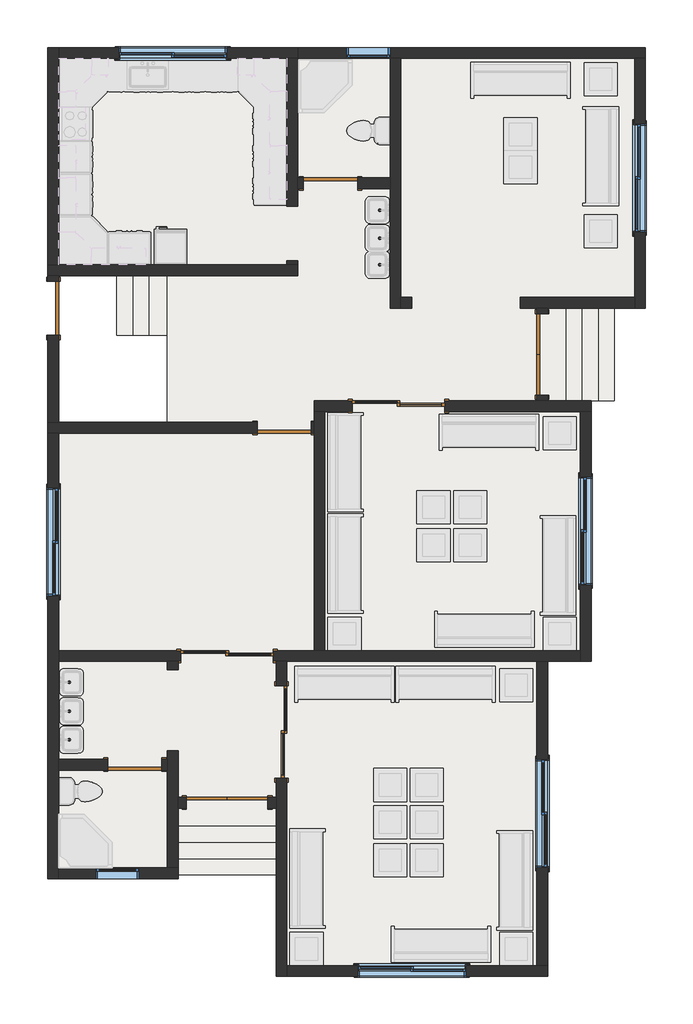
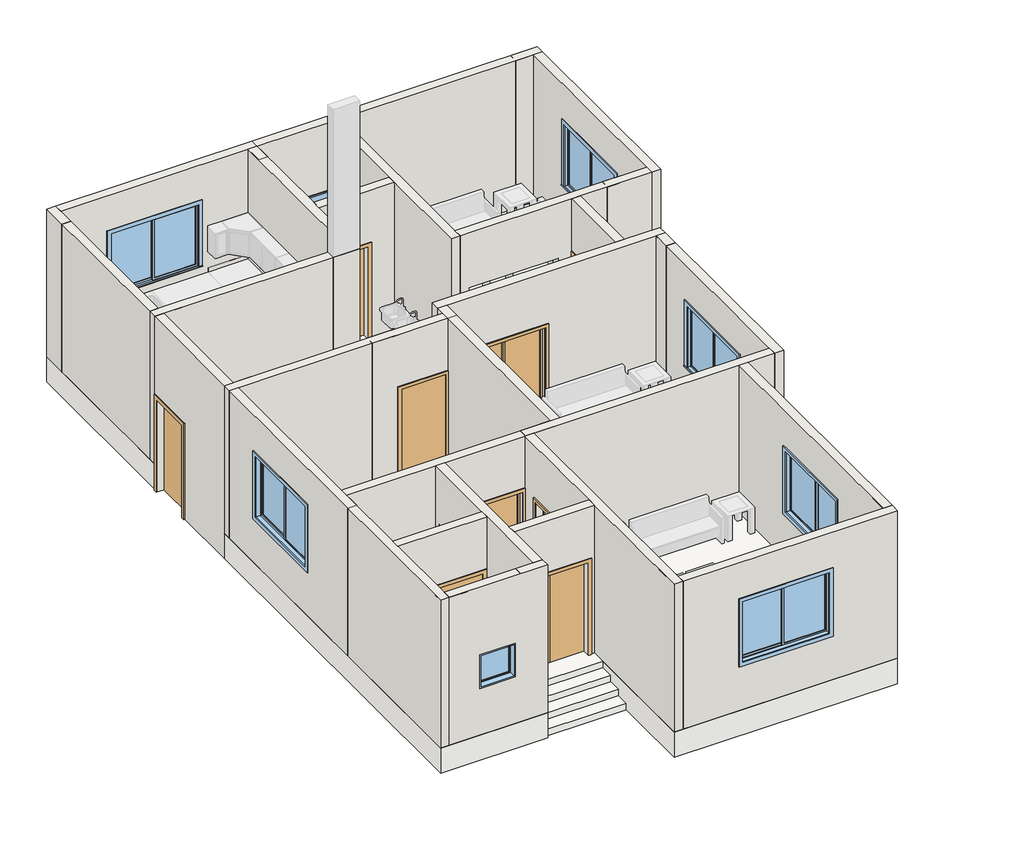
# One storey, part 1 of 2: 24 walls, 10 slabs, 9 doors, 8 windows.
"""IFC4 building model written with IfcOpenShell, lengths in millimetres."""

from ifc_helpers import new_model, si_unit, frame, origin, place, context, project, spatial, polyline, outline, extrude, faceted_brep, transform, mapped, element, save
from components import m_double_flush_4a17c8f0, m_single_flush_6cbb3975, m_sliding_2_panel_41676aa5, m_fixed_1d0fbe82, m_fixed_a47e0898, m_sliding_with_trim_450d2075, m_sliding_with_trim_8e0fa824

model = new_model("IFC4")

# Units and contexts
model_context = context("Model", 3, world=origin())
ifc_project = project(units=[si_unit("LENGTHUNIT", "METRE", prefix="MILLI")], contexts=[model_context])

# Site, building, storey
site = spatial("IfcSite", under=ifc_project)
building = spatial("IfcBuilding", under=site)
storey = spatial("IfcBuildingStorey", under=building, Name="الدور الأرضي", Elevation=0.0)

# Doors
placement = place(None, origin())
m_double_flush_shape = m_double_flush_4a17c8f0(model_context)
element("IfcDoor", 1, ObjectType="M_Double-Flush : ب 2", at=placement, inside=storey, context=model_context, shape_type="MappedRepresentation", body=[
    mapped(m_double_flush_shape, transform((-2518.9848222, -5670.2727444, 0.0), x_axis=(1.0, 0.0, 0.0), y_axis=(0.0, 1.0, 0.0), z_axis=(0.0, 0.0, 1.0))),
])
element("IfcDoor", 2, ObjectType="M_Double-Flush : ب 2", at=placement, inside=storey, context=model_context, shape_type="MappedRepresentation", body=[
    mapped(m_double_flush_shape, transform((3281.0151778, 2579.7272556, 0.0), x_axis=(0.0, 1.0, 0.0), y_axis=(-1.0, 0.0, 0.0), z_axis=(0.0, 0.0, 1.0))),
])
m_single_flush_shape = m_single_flush_6cbb3975(model_context)
element("IfcDoor", 3, ObjectType="M_Single-Flush : ب 1", at=placement, inside=storey, context=model_context, shape_type="MappedRepresentation", body=[
    mapped(m_single_flush_shape, transform((-4218.9848222, -4970.2727444, 0.0), x_axis=(1.0, 0.0, 0.0), y_axis=(0.0, 1.0, 0.0), z_axis=(0.0, 0.0, 1.0))),
])
element("IfcDoor", 4, ObjectType="M_Single-Flush : ب 1", at=placement, inside=storey, context=model_context, shape_type="MappedRepresentation", body=[
    mapped(m_single_flush_shape, transform((-1468.9848222, 1229.7272556, 0.0), x_axis=(1.0, 0.0, 0.0), y_axis=(0.0, 1.0, 0.0), z_axis=(0.0, 0.0, 1.0))),
])
element("IfcDoor", 5, ObjectType="M_Single-Flush : ب 1", at=placement, inside=storey, context=model_context, shape_type="MappedRepresentation", body=[
    mapped(m_single_flush_shape, transform((-618.9848222, 5729.7272556, 0.0), x_axis=(-1.0, 0.0, 0.0), y_axis=(0.0, -1.0, 0.0), z_axis=(0.0, 0.0, 1.0))),
])
element("IfcDoor", 6, ObjectType="M_Single-Flush : ب 1", at=placement, inside=storey, context=model_context, shape_type="MappedRepresentation", body=[
    mapped(m_single_flush_shape, transform((-5718.9848222, 3429.7272556, -600.0), x_axis=(0.0, 1.0, 0.0), y_axis=(-1.0, 0.0, 0.0), z_axis=(0.0, 0.0, 1.0))),
])
m_sliding_2_panel_shape = m_sliding_2_panel_41676aa5(model_context)
element("IfcDoor", 7, ObjectType="M_Sliding-2 Panel : ب 3", at=placement, inside=storey, context=model_context, shape_type="MappedRepresentation", body=[
    mapped(m_sliding_2_panel_shape, transform((636.0151778, 1502.7272556, 0.0), x_axis=(1.0, 0.0, 0.0), y_axis=(0.0, 1.0, 0.0), z_axis=(0.0, 0.0, 1.0))),
])
element("IfcDoor", 8, ObjectType="M_Sliding-2 Panel : ب 3", at=placement, inside=storey, context=model_context, shape_type="MappedRepresentation", body=[
    mapped(m_sliding_2_panel_shape, transform((-2518.9848222, -3097.2727444, 0.0), x_axis=(1.0, 0.0, 0.0), y_axis=(0.0, 1.0, 0.0), z_axis=(0.0, 0.0, 1.0))),
])
element("IfcDoor", 9, ObjectType="M_Sliding-2 Panel : ب 3", at=placement, inside=storey, context=model_context, shape_type="MappedRepresentation", body=[
    mapped(m_sliding_2_panel_shape, transform((-1645.9848222, -4370.2727444, 0.0), x_axis=(0.0, -1.0, 0.0), y_axis=(1.0, 0.0, 0.0), z_axis=(0.0, 0.0, 1.0))),
])

# Slabs
element("IfcSlab", 10, ObjectType="Generic Floor - 150 mm", at=placement, inside=storey, context=model_context, shape_type="SweptSolid", body=[
    extrude(outline(polyline([(4611.0151778, 1729.7272556), (4311.0151778, 1729.7272556), (4311.0151778, 3429.7272556), (4611.0151778, 3429.7272556), (4611.0151778, 1729.7272556)])), frame((0.0, 0.0, -600.0), z_axis=(0.0, 0.0, 1.0), x_axis=(1.0, 0.0, 0.0)), (0.0, 0.0, 1.0), 150.0),
])
element("IfcSlab", 11, ObjectType="Generic Floor - 150mm", at=placement, inside=storey, context=model_context, shape_type="SweptSolid", body=[
    extrude(outline(polyline([(-1618.9848222, -6700.2727444), (-1618.9848222, -7000.2727444), (-3418.9848222, -7000.2727444), (-3418.9848222, -6700.2727444), (-1618.9848222, -6700.2727444)])), frame((0.0, 0.0, -600.0), z_axis=(0.0, 0.0, 1.0), x_axis=(1.0, 0.0, 0.0)), (0.0, 0.0, 1.0), 150.0),
])
element("IfcSlab", 12, ObjectType="Generic Floor - 150mm", at=placement, inside=storey, context=model_context, shape_type="SweptSolid", body=[
    extrude(outline(polyline([(-4548.9848222, 2929.7272556), (-4548.9848222, 4029.7272556), (-4248.9848222, 4029.7272556), (-4248.9848222, 2929.7272556), (-4548.9848222, 2929.7272556)])), frame((0.0, 0.0, -600.0), z_axis=(0.0, 0.0, 1.0), x_axis=(1.0, 0.0, 0.0)), (0.0, 0.0, 1.0), 150.0),
])
element("IfcSlab", 13, ObjectType="Generic Floor - 300 mm", at=placement, inside=storey, context=model_context, shape_type="SweptSolid", body=[
    extrude(outline(polyline([(4311.0151778, 1726.4670822), (4011.0151778, 1726.4670822), (4011.0151778, 3426.4670822), (4311.0151778, 3426.4670822), (4311.0151778, 1726.4670822)])), frame((0.0, 0.0, -600.0), z_axis=(0.0, 0.0, 1.0), x_axis=(1.0, 0.0, 0.0)), (0.0, 0.0, 1.0), 300.0),
])
element("IfcSlab", 14, ObjectType="Generic Floor - 300 mm", at=placement, inside=storey, context=model_context, shape_type="SweptSolid", body=[
    extrude(outline(polyline([(-1618.9848222, -6400.2727444), (-1618.9848222, -6700.2727444), (-3418.9848222, -6700.2727444), (-3418.9848222, -6400.2727444), (-1618.9848222, -6400.2727444)])), frame((0.0, 0.0, -600.0), z_axis=(0.0, 0.0, 1.0), x_axis=(1.0, 0.0, 0.0)), (0.0, 0.0, 1.0), 300.0),
])
element("IfcSlab", 15, ObjectType="Generic Floor - 300 mm", at=placement, inside=storey, context=model_context, shape_type="SweptSolid", body=[
    extrude(outline(polyline([(-3948.9848222, 2929.7272556), (-4248.9848222, 2929.7272556), (-4248.9848222, 4029.7272556), (-3948.9848222, 4029.7272556), (-3948.9848222, 2929.7272556)])), frame((0.0, 0.0, -600.0), z_axis=(0.0, 0.0, 1.0), x_axis=(1.0, 0.0, 0.0)), (0.0, 0.0, 1.0), 300.0),
])
element("IfcSlab", 16, ObjectType="Generic Floor - 450 mm", at=placement, inside=storey, context=model_context, shape_type="SweptSolid", body=[
    extrude(outline(polyline([(4011.0151778, 1729.7272556), (3711.0151778, 1729.7272556), (3711.0151778, 3429.7272556), (4011.0151778, 3429.7272556), (4011.0151778, 1729.7272556)])), frame((0.0, 0.0, -600.0), z_axis=(0.0, 0.0, 1.0), x_axis=(1.0, 0.0, 0.0)), (0.0, 0.0, 1.0), 450.0),
])
element("IfcSlab", 17, ObjectType="Generic Floor - 450 mm", at=placement, inside=storey, context=model_context, shape_type="SweptSolid", body=[
    extrude(outline(polyline([(-1618.9848222, -6100.2727444), (-1618.9848222, -6400.2727444), (-3418.9848222, -6400.2727444), (-3418.9848222, -6100.2727444), (-1618.9848222, -6100.2727444)])), frame((0.0, 0.0, -600.0), z_axis=(0.0, 0.0, 1.0), x_axis=(1.0, 0.0, 0.0)), (0.0, 0.0, 1.0), 450.0),
])
element("IfcSlab", 18, ObjectType="Generic Floor - 450 mm", at=placement, inside=storey, context=model_context, shape_type="SweptSolid", body=[
    extrude(outline(polyline([(-3618.9848222, 2929.7272556), (-3948.9848222, 2929.7272556), (-3948.9848222, 4029.7272556), (-3618.9848222, 4029.7272556), (-3618.9848222, 2929.7272556)])), frame((0.0, 0.0, -600.0), z_axis=(0.0, 0.0, 1.0), x_axis=(1.0, 0.0, 0.0)), (0.0, 0.0, 1.0), 450.0),
])
element("IfcSlab", 19, ObjectType="Generic Floor - 600mm", at=placement, inside=storey, context=model_context, shape_type="SweptSolid", body=[
    extrude(outline(polyline([(5181.0151778, 8229.7272556), (5181.0151778, 3429.7272556), (3711.0151778, 3429.7272556), (3711.0151778, 1729.7272556), (4181.0151778, 1729.7272556), (4181.0151778, -3070.2727444), (3381.0151778, -3070.2727444), (3381.0151778, -8870.2727444), (-1618.9848222, -8870.2727444), (-1618.9848222, -6100.2727444), (-3418.9848222, -6100.2727444), (-3418.9848222, -7070.2727444), (-5818.9848222, -7070.2727444), (-5818.9848222, 1329.7272556), (-3618.9848222, 1329.7272556), (-3618.9848222, 4029.7272556), (-5818.9848222, 4029.7272556), (-5818.9848222, 8229.7272556), (5181.0151778, 8229.7272556)])), frame((0.0, 0.0, -600.0), z_axis=(0.0, 0.0, 1.0), x_axis=(1.0, 0.0, 0.0)), (0.0, 0.0, 1.0), 600.0),
])

# Walls
element("IfcWall", 20, ObjectType="GF- 200mm", at=placement, inside=storey, context=model_context, shape_type="Brep", body=[
    faceted_brep([(-5818.9848222, 8229.7272556, 0.0), (-5818.9848222, 4229.7272556, 0.0), (-5818.9848222, 4229.7272556, 3500.0), (-5818.9848222, 8229.7272556, 3500.0), (-5618.9848222, 8229.7272556, 0.0), (-5618.9848222, 8229.7272556, 3500.0), (-5618.9848222, 8029.7272556, 3500.0), (-5618.9848222, 4229.7272556, 3500.0), (-5618.9848222, 4229.7272556, 0.0), (-5618.9848222, 8029.7272556, 0.0)], [[[0, 1, 2, 3]], [[4, 5, 6, 7, 8, 9]], [[1, 0, 4, 9, 8]], [[3, 2, 7, 6, 5]], [[0, 3, 5, 4]], [[2, 1, 8, 7]]]),
])
element("IfcWall", 21, ObjectType="GF- 200mm", at=placement, inside=storey, context=model_context, shape_type="Brep", body=[
    faceted_brep([(-5818.9848222, 4029.7272556, 0.0), (-1218.9848222, 4029.7272556, 0.0), (-1218.9848222, 4029.7272556, 3500.0), (-5618.9848222, 4029.7272556, 3500.0), (-5818.9848222, 4029.7272556, 3500.0), (-5818.9848222, 4229.7272556, 0.0), (-5818.9848222, 4229.7272556, 3500.0), (-5618.9848222, 4229.7272556, 3500.0), (-1418.9848222, 4229.7272556, 3500.0), (-1218.9848222, 4229.7272556, 3500.0), (-1218.9848222, 4229.7272556, 0.0), (-1418.9848222, 4229.7272556, 0.0), (-5618.9848222, 4229.7272556, 0.0)], [[[0, 1, 2, 3, 4]], [[5, 6, 7, 8, 9, 10, 11, 12]], [[1, 0, 5, 12, 11, 10]], [[4, 3, 2, 9, 8, 7, 6]], [[2, 1, 10, 9]], [[0, 4, 6, 5]]]),
])
element("IfcWall", 22, ObjectType="GF- 200mm", at=placement, inside=storey, context=model_context, shape_type="Brep", body=[
    faceted_brep([(-5618.9848222, 8029.7272556, 0.0), (-1418.9848222, 8029.7272556, 0.0), (-1218.9848222, 8029.7272556, 0.0), (-1218.9848222, 8029.7272556, 3500.0), (-1418.9848222, 8029.7272556, 3500.0), (-5618.9848222, 8029.7272556, 3500.0), (-2518.9848222, 8029.7272556, 2600.0), (-2518.9848222, 8029.7272556, 1100.0), (-4518.9848222, 8029.7272556, 1100.0), (-4518.9848222, 8029.7272556, 2600.0), (-5618.9848222, 8229.7272556, 0.0), (-5618.9848222, 8229.7272556, 3500.0), (-1218.9848222, 8229.7272556, 3500.0), (-1218.9848222, 8229.7272556, 0.0), (-2518.9848222, 8229.7272556, 2600.0), (-4518.9848222, 8229.7272556, 2600.0), (-4518.9848222, 8229.7272556, 1100.0), (-2518.9848222, 8229.7272556, 1100.0)], [[[0, 1, 2, 3, 4, 5], [6, 7, 8, 9]], [[10, 11, 12, 13], [14, 15, 16, 17]], [[2, 1, 0, 10, 13]], [[5, 4, 3, 12, 11]], [[0, 5, 11, 10]], [[3, 2, 13, 12]], [[7, 6, 14, 17]], [[8, 7, 17, 16]], [[9, 8, 16, 15]], [[6, 9, 15, 14]]]),
])
element("IfcWall", 23, ObjectType="GF- 200mm", at=placement, inside=storey, context=model_context, shape_type="Brep", body=[
    faceted_brep([(-1218.9848222, 4229.7272556, 0.0), (-1218.9848222, 4309.7272556, 0.0), (-1218.9848222, 4309.7272556, 2134.0), (-1218.9848222, 5309.7272556, 2134.0), (-1218.9848222, 5309.7272556, 0.0), (-1218.9848222, 5629.7272556, 0.0), (-1218.9848222, 5829.7272556, 0.0), (-1218.9848222, 8029.7272556, 0.0), (-1218.9848222, 8029.7272556, 3500.0), (-1218.9848222, 5829.7272556, 3500.0), (-1218.9848222, 5629.7272556, 3500.0), (-1218.9848222, 4229.7272556, 3500.0), (-1418.9848222, 4309.7272556, 2134.0), (-1418.9848222, 4309.7272556, 0.0), (-1418.9848222, 4229.7272556, 0.0), (-1418.9848222, 4229.7272556, 3500.0), (-1418.9848222, 8029.7272556, 3500.0), (-1418.9848222, 8029.7272556, 0.0), (-1418.9848222, 5309.7272556, 0.0), (-1418.9848222, 5309.7272556, 2134.0)], [[[0, 1, 2, 3, 4, 5, 6, 7, 8, 9, 10, 11]], [[12, 13, 14, 15, 16, 17, 18, 19]], [[18, 17, 7, 6, 5, 4]], [[14, 13, 1, 0]], [[11, 10, 9, 8, 16, 15]], [[0, 11, 15, 14]], [[8, 7, 17, 16]], [[4, 3, 19, 18]], [[2, 1, 13, 12]], [[3, 2, 12, 19]]]),
])
element("IfcWall", 24, ObjectType="GF- 200mm", at=placement, inside=storey, context=model_context, shape_type="Brep", body=[
    faceted_brep([(-1218.9848222, 8029.7272556, 0.0), (481.0151778, 8029.7272556, 0.0), (681.0151778, 8029.7272556, 0.0), (4981.0151778, 8029.7272556, 0.0), (5181.0151778, 8029.7272556, 0.0), (5181.0151778, 8029.7272556, 3500.0), (4981.0151778, 8029.7272556, 3500.0), (681.0151778, 8029.7272556, 3500.0), (481.0151778, 8029.7272556, 3500.0), (-1218.9848222, 8029.7272556, 3500.0), (481.0151778, 8029.7272556, 1100.0), (-318.9848222, 8029.7272556, 1100.0), (-318.9848222, 8029.7272556, 1900.0), (481.0151778, 8029.7272556, 1900.0), (-1218.9848222, 8229.7272556, 0.0), (-1218.9848222, 8229.7272556, 3500.0), (5181.0151778, 8229.7272556, 3500.0), (5181.0151778, 8229.7272556, 0.0), (481.0151778, 8229.7272556, 1100.0), (481.0151778, 8229.7272556, 1900.0), (-318.9848222, 8229.7272556, 1900.0), (-318.9848222, 8229.7272556, 1100.0)], [[[0, 1, 2, 3, 4, 5, 6, 7, 8, 9], [10, 11, 12, 13]], [[14, 15, 16, 17], [18, 19, 20, 21]], [[4, 3, 2, 1, 0, 14, 17]], [[9, 8, 7, 6, 5, 16, 15]], [[5, 4, 17, 16]], [[0, 9, 15, 14]], [[19, 18, 10, 13]], [[20, 19, 13, 12]], [[21, 20, 12, 11]], [[18, 21, 11, 10]]]),
])
element("IfcWall", 25, ObjectType="GF- 200mm", at=placement, inside=storey, context=model_context, shape_type="Brep", body=[
    faceted_brep([(4981.0151778, 8029.7272556, 0.0), (4981.0151778, 3629.7272556, 0.0), (4981.0151778, 3429.7272556, 0.0), (4981.0151778, 3429.7272556, 3500.0), (4981.0151778, 3629.7272556, 3500.0), (4981.0151778, 8029.7272556, 3500.0), (4981.0151778, 4829.7272556, 2600.0), (4981.0151778, 4829.7272556, 1100.0), (4981.0151778, 6829.7272556, 1100.0), (4981.0151778, 6829.7272556, 2600.0), (5181.0151778, 8029.7272556, 0.0), (5181.0151778, 8029.7272556, 3500.0), (5181.0151778, 3429.7272556, 3500.0), (5181.0151778, 3429.7272556, 0.0), (5181.0151778, 4829.7272556, 2600.0), (5181.0151778, 6829.7272556, 2600.0), (5181.0151778, 6829.7272556, 1100.0), (5181.0151778, 4829.7272556, 1100.0)], [[[0, 1, 2, 3, 4, 5], [6, 7, 8, 9]], [[10, 11, 12, 13], [14, 15, 16, 17]], [[2, 1, 0, 10, 13]], [[5, 4, 3, 12, 11]], [[0, 5, 11, 10]], [[3, 2, 13, 12]], [[7, 6, 14, 17]], [[8, 7, 17, 16]], [[9, 8, 16, 15]], [[6, 9, 15, 14]]]),
])
element("IfcWall", 26, ObjectType="GF- 200mm", at=placement, inside=storey, context=model_context, shape_type="Brep", body=[
    faceted_brep([(481.0151778, 8029.7272556, 0.0), (481.0151778, 5829.7272556, 0.0), (481.0151778, 5629.7272556, 0.0), (481.0151778, 3429.7272556, 0.0), (481.0151778, 3429.7272556, 3500.0), (481.0151778, 5629.7272556, 3500.0), (481.0151778, 5829.7272556, 3500.0), (481.0151778, 8029.7272556, 3500.0), (481.0151778, 8029.7272556, 1900.0), (481.0151778, 8029.7272556, 1100.0), (681.0151778, 8029.7272556, 0.0), (681.0151778, 8029.7272556, 3500.0), (681.0151778, 3629.7272556, 3500.0), (681.0151778, 3429.7272556, 3500.0), (681.0151778, 3429.7272556, 0.0), (681.0151778, 3629.7272556, 0.0)], [[[0, 1, 2, 3, 4, 5, 6, 7, 8, 9]], [[10, 11, 12, 13, 14, 15]], [[3, 2, 1, 0, 10, 15, 14]], [[7, 6, 5, 4, 13, 12, 11]], [[0, 9, 8, 7, 11, 10]], [[4, 3, 14, 13]]]),
])
element("IfcWall", 27, ObjectType="GF- 200mm", at=placement, inside=storey, context=model_context, shape_type="Brep", body=[
    faceted_brep([(681.0151778, 3429.7272556, 0.0), (881.0151778, 3429.7272556, 0.0), (881.0151778, 3429.7272556, 2200.0), (2881.0151778, 3429.7272556, 2200.0), (2881.0151778, 3429.7272556, 0.0), (3181.0151778, 3429.7272556, 0.0), (3381.0151778, 3429.7272556, 0.0), (4981.0151778, 3429.7272556, 0.0), (4981.0151778, 3429.7272556, 3500.0), (3381.0151778, 3429.7272556, 3500.0), (3181.0151778, 3429.7272556, 3500.0), (681.0151778, 3429.7272556, 3500.0), (881.0151778, 3629.7272556, 2200.0), (881.0151778, 3629.7272556, 0.0), (681.0151778, 3629.7272556, 0.0), (681.0151778, 3629.7272556, 3500.0), (4981.0151778, 3629.7272556, 3500.0), (4981.0151778, 3629.7272556, 0.0), (2881.0151778, 3629.7272556, 0.0), (2881.0151778, 3629.7272556, 2200.0)], [[[0, 1, 2, 3, 4, 5, 6, 7, 8, 9, 10, 11]], [[12, 13, 14, 15, 16, 17, 18, 19]], [[18, 17, 7, 6, 5, 4]], [[14, 13, 1, 0]], [[11, 10, 9, 8, 16, 15]], [[8, 7, 17, 16]], [[0, 11, 15, 14]], [[4, 3, 19, 18]], [[2, 1, 13, 12]], [[3, 2, 12, 19]]]),
])
element("IfcWall", 28, ObjectType="GF- 200mm", at=placement, inside=storey, context=model_context, shape_type="SweptSolid", body=[
    extrude(outline(polyline([(1729.7272556, 3500.0), (3429.7272556, 3500.0), (3429.7272556, 0.0), (3329.7272556, 0.0), (3329.7272556, 2200.0), (1829.7272556, 2200.0), (1829.7272556, 0.0), (1729.7272556, 0.0), (1729.7272556, 3500.0)])), frame((3181.0151778, 0.0, 0.0), z_axis=(1.0, 0.0, 0.0), x_axis=(0.0, 1.0, 0.0)), (0.0, 0.0, 1.0), 200.0),
])
element("IfcWall", 29, ObjectType="GF- 200mm", at=placement, inside=storey, context=model_context, shape_type="Brep", body=[
    faceted_brep([(4181.0151778, 1729.7272556, 0.0), (3381.0151778, 1729.7272556, 0.0), (3181.0151778, 1729.7272556, 0.0), (1486.0151778, 1729.7272556, 0.0), (1486.0151778, 1729.7272556, 2200.0), (-213.9848222, 1729.7272556, 2200.0), (-213.9848222, 1729.7272556, 0.0), (-918.9848222, 1729.7272556, 0.0), (-918.9848222, 1729.7272556, 3500.0), (3181.0151778, 1729.7272556, 3500.0), (3381.0151778, 1729.7272556, 3500.0), (4181.0151778, 1729.7272556, 3500.0), (1486.0151778, 1529.7272556, 2200.0), (1486.0151778, 1529.7272556, 0.0), (3981.0151778, 1529.7272556, 0.0), (4181.0151778, 1529.7272556, 0.0), (4181.0151778, 1529.7272556, 3500.0), (3981.0151778, 1529.7272556, 3500.0), (-718.9848222, 1529.7272556, 3500.0), (-918.9848222, 1529.7272556, 3500.0), (-918.9848222, 1529.7272556, 0.0), (-718.9848222, 1529.7272556, 0.0), (-213.9848222, 1529.7272556, 0.0), (-213.9848222, 1529.7272556, 2200.0)], [[[0, 1, 2, 3, 4, 5, 6, 7, 8, 9, 10, 11]], [[12, 13, 14, 15, 16, 17, 18, 19, 20, 21, 22, 23]], [[15, 14, 13, 3, 2, 1, 0]], [[22, 21, 20, 7, 6]], [[11, 10, 9, 8, 19, 18, 17, 16]], [[0, 11, 16, 15]], [[8, 7, 20, 19]], [[6, 5, 23, 22]], [[4, 3, 13, 12]], [[5, 4, 12, 23]]]),
])
element("IfcWall", 30, ObjectType="GF- 200mm", at=placement, inside=storey, context=model_context, shape_type="Brep", body=[
    faceted_brep([(3981.0151778, 1529.7272556, 0.0), (3981.0151778, -2870.2727444, 0.0), (3981.0151778, -3070.2727444, 0.0), (3981.0151778, -3070.2727444, 3500.0), (3981.0151778, -2870.2727444, 3500.0), (3981.0151778, 1529.7272556, 3500.0), (3981.0151778, -1670.2727444, 2600.0), (3981.0151778, -1670.2727444, 1100.0), (3981.0151778, 329.7272556, 1100.0), (3981.0151778, 329.7272556, 2600.0), (4181.0151778, 1529.7272556, 0.0), (4181.0151778, 1529.7272556, 3500.0), (4181.0151778, -3070.2727444, 3500.0), (4181.0151778, -3070.2727444, 0.0), (4181.0151778, -1670.2727444, 2600.0), (4181.0151778, 329.7272556, 2600.0), (4181.0151778, 329.7272556, 1100.0), (4181.0151778, -1670.2727444, 1100.0)], [[[0, 1, 2, 3, 4, 5], [6, 7, 8, 9]], [[10, 11, 12, 13], [14, 15, 16, 17]], [[2, 1, 0, 10, 13]], [[5, 4, 3, 12, 11]], [[0, 5, 11, 10]], [[3, 2, 13, 12]], [[7, 6, 14, 17]], [[8, 7, 17, 16]], [[9, 8, 16, 15]], [[6, 9, 15, 14]]]),
])
element("IfcWall", 31, ObjectType="GF- 200mm", at=placement, inside=storey, context=model_context, shape_type="Brep", body=[
    faceted_brep([(-1668.9848222, -3070.2727444, 2200.0), (-1668.9848222, -3070.2727444, 0.0), (-1618.9848222, -3070.2727444, 0.0), (-1418.9848222, -3070.2727444, 0.0), (3181.0151778, -3070.2727444, 0.0), (3381.0151778, -3070.2727444, 0.0), (3981.0151778, -3070.2727444, 0.0), (3981.0151778, -3070.2727444, 3500.0), (3381.0151778, -3070.2727444, 3500.0), (3181.0151778, -3070.2727444, 3500.0), (-1418.9848222, -3070.2727444, 3500.0), (-1618.9848222, -3070.2727444, 3500.0), (-3418.9848222, -3070.2727444, 3500.0), (-3618.9848222, -3070.2727444, 3500.0), (-5618.9848222, -3070.2727444, 3500.0), (-5618.9848222, -3070.2727444, 0.0), (-3618.9848222, -3070.2727444, 0.0), (-3418.9848222, -3070.2727444, 0.0), (-3368.9848222, -3070.2727444, 0.0), (-3368.9848222, -3070.2727444, 2200.0), (3981.0151778, -2870.2727444, 0.0), (-718.9848222, -2870.2727444, 0.0), (-918.9848222, -2870.2727444, 0.0), (-1668.9848222, -2870.2727444, 0.0), (-1668.9848222, -2870.2727444, 2200.0), (-3368.9848222, -2870.2727444, 2200.0), (-3368.9848222, -2870.2727444, 0.0), (-5618.9848222, -2870.2727444, 0.0), (-5618.9848222, -2870.2727444, 3500.0), (-918.9848222, -2870.2727444, 3500.0), (-718.9848222, -2870.2727444, 3500.0), (3981.0151778, -2870.2727444, 3500.0)], [[[0, 1, 2, 3, 4, 5, 6, 7, 8, 9, 10, 11, 12, 13, 14, 15, 16, 17, 18, 19]], [[20, 21, 22, 23, 24, 25, 26, 27, 28, 29, 30, 31]], [[6, 5, 4, 3, 2, 1, 23, 22, 21, 20]], [[18, 17, 16, 15, 27, 26]], [[14, 13, 12, 11, 10, 9, 8, 7, 31, 30, 29, 28]], [[7, 6, 20, 31]], [[15, 14, 28, 27]], [[26, 25, 19, 18]], [[24, 23, 1, 0]], [[25, 24, 0, 19]]]),
])
element("IfcWall", 32, ObjectType="GF- 200mm", at=placement, inside=storey, context=model_context, shape_type="Brep", body=[
    faceted_brep([(-718.9848222, -2870.2727444, 0.0), (-718.9848222, 1529.7272556, 0.0), (-718.9848222, 1529.7272556, 3500.0), (-718.9848222, -2870.2727444, 3500.0), (-918.9848222, -2870.2727444, 0.0), (-918.9848222, -2870.2727444, 3500.0), (-918.9848222, 1129.7272556, 3500.0), (-918.9848222, 1329.7272556, 3500.0), (-918.9848222, 1529.7272556, 3500.0), (-918.9848222, 1529.7272556, 0.0), (-918.9848222, 1329.7272556, 0.0), (-918.9848222, 1129.7272556, 0.0)], [[[0, 1, 2, 3]], [[4, 5, 6, 7, 8, 9, 10, 11]], [[1, 0, 4, 11, 10, 9]], [[3, 2, 8, 7, 6, 5]], [[2, 1, 9, 8]], [[0, 3, 5, 4]]]),
])
element("IfcWall", 33, ObjectType="GF- 200mm", at=placement, inside=storey, context=model_context, shape_type="Brep", body=[
    faceted_brep([(-918.9848222, 1329.7272556, 0.0), (-968.9848222, 1329.7272556, 0.0), (-968.9848222, 1329.7272556, 2200.0), (-1968.9848222, 1329.7272556, 2200.0), (-1968.9848222, 1329.7272556, 0.0), (-5818.9848222, 1329.7272556, 0.0), (-5818.9848222, 1329.7272556, 3500.0), (-5618.9848222, 1329.7272556, 3500.0), (-918.9848222, 1329.7272556, 3500.0), (-968.9848222, 1129.7272556, 2200.0), (-968.9848222, 1129.7272556, 0.0), (-918.9848222, 1129.7272556, 0.0), (-918.9848222, 1129.7272556, 3500.0), (-5618.9848222, 1129.7272556, 3500.0), (-5818.9848222, 1129.7272556, 3500.0), (-5818.9848222, 1129.7272556, 0.0), (-5618.9848222, 1129.7272556, 0.0), (-1968.9848222, 1129.7272556, 0.0), (-1968.9848222, 1129.7272556, 2200.0)], [[[0, 1, 2, 3, 4, 5, 6, 7, 8]], [[9, 10, 11, 12, 13, 14, 15, 16, 17, 18]], [[11, 10, 1, 0]], [[17, 16, 15, 5, 4]], [[8, 7, 6, 14, 13, 12]], [[0, 8, 12, 11]], [[2, 1, 10, 9]], [[3, 2, 9, 18]], [[4, 3, 18, 17]], [[6, 5, 15, 14]]]),
])
element("IfcWall", 34, ObjectType="GF- 200mm", at=placement, inside=storey, context=model_context, shape_type="Brep", body=[
    faceted_brep([(-3418.9848222, -6870.2727444, 0.0), (-3618.9848222, -6870.2727444, 0.0), (-5618.9848222, -6870.2727444, 0.0), (-5618.9848222, -6870.2727444, 3500.0), (-3618.9848222, -6870.2727444, 3500.0), (-3418.9848222, -6870.2727444, 3500.0), (-4138.9848222, -6870.2727444, 1100.0), (-4138.9848222, -6870.2727444, 1900.0), (-4938.9848222, -6870.2727444, 1900.0), (-4938.9848222, -6870.2727444, 1100.0), (-3418.9848222, -7070.2727444, 0.0), (-3418.9848222, -7070.2727444, 3500.0), (-5618.9848222, -7070.2727444, 3500.0), (-5618.9848222, -7070.2727444, 0.0), (-4138.9848222, -7070.2727444, 1100.0), (-4938.9848222, -7070.2727444, 1100.0), (-4938.9848222, -7070.2727444, 1900.0), (-4138.9848222, -7070.2727444, 1900.0)], [[[0, 1, 2, 3, 4, 5], [6, 7, 8, 9]], [[10, 11, 12, 13], [14, 15, 16, 17]], [[2, 1, 0, 10, 13]], [[5, 4, 3, 12, 11]], [[3, 2, 13, 12]], [[0, 5, 11, 10]], [[7, 6, 14, 17]], [[8, 7, 17, 16]], [[9, 8, 16, 15]], [[6, 9, 15, 14]]]),
])
element("IfcWall", 35, ObjectType="GF- 200mm", at=placement, inside=storey, context=model_context, shape_type="Brep", body=[
    faceted_brep([(-1418.9848222, -8870.2727444, 0.0), (-1418.9848222, -8670.2727444, 0.0), (-1418.9848222, -5220.2727444, 0.0), (-1418.9848222, -5220.2727444, 2200.0), (-1418.9848222, -3520.2727444, 2200.0), (-1418.9848222, -3520.2727444, 0.0), (-1418.9848222, -3070.2727444, 0.0), (-1418.9848222, -3070.2727444, 3500.0), (-1418.9848222, -8670.2727444, 3500.0), (-1418.9848222, -8870.2727444, 3500.0), (-1618.9848222, -5220.2727444, 2200.0), (-1618.9848222, -5220.2727444, 0.0), (-1618.9848222, -5570.2727444, 0.0), (-1618.9848222, -5770.2727444, 0.0), (-1618.9848222, -8870.2727444, 0.0), (-1618.9848222, -8870.2727444, 3500.0), (-1618.9848222, -5770.2727444, 3500.0), (-1618.9848222, -5570.2727444, 3500.0), (-1618.9848222, -3070.2727444, 3500.0), (-1618.9848222, -3070.2727444, 0.0), (-1618.9848222, -3520.2727444, 0.0), (-1618.9848222, -3520.2727444, 2200.0)], [[[0, 1, 2, 3, 4, 5, 6, 7, 8, 9]], [[10, 11, 12, 13, 14, 15, 16, 17, 18, 19, 20, 21]], [[20, 19, 6, 5]], [[14, 13, 12, 11, 2, 1, 0]], [[9, 8, 7, 18, 17, 16, 15]], [[0, 9, 15, 14]], [[7, 6, 19, 18]], [[5, 4, 21, 20]], [[3, 2, 11, 10]], [[4, 3, 10, 21]]]),
])
element("IfcWall", 36, ObjectType="GF- 200mm", at=placement, inside=storey, context=model_context, shape_type="Brep", body=[
    faceted_brep([(3381.0151778, -8670.2727444, 0.0), (3181.0151778, -8670.2727444, 0.0), (-1418.9848222, -8670.2727444, 0.0), (-1418.9848222, -8670.2727444, 3500.0), (3181.0151778, -8670.2727444, 3500.0), (3381.0151778, -8670.2727444, 3500.0), (-118.9848222, -8670.2727444, 2600.0), (-118.9848222, -8670.2727444, 1100.0), (1881.0151778, -8670.2727444, 1100.0), (1881.0151778, -8670.2727444, 2600.0), (3381.0151778, -8870.2727444, 0.0), (3381.0151778, -8870.2727444, 3500.0), (-1418.9848222, -8870.2727444, 3500.0), (-1418.9848222, -8870.2727444, 0.0), (-118.9848222, -8870.2727444, 2600.0), (1881.0151778, -8870.2727444, 2600.0), (1881.0151778, -8870.2727444, 1100.0), (-118.9848222, -8870.2727444, 1100.0)], [[[0, 1, 2, 3, 4, 5], [6, 7, 8, 9]], [[10, 11, 12, 13], [14, 15, 16, 17]], [[2, 1, 0, 10, 13]], [[5, 4, 3, 12, 11]], [[3, 2, 13, 12]], [[0, 5, 11, 10]], [[7, 6, 14, 17]], [[8, 7, 17, 16]], [[9, 8, 16, 15]], [[6, 9, 15, 14]]]),
])
element("IfcWall", 37, ObjectType="GF- 200mm", at=placement, inside=storey, context=model_context, shape_type="SweptSolid", body=[
    extrude(outline(polyline([(-3070.2727444, 0.0), (-8670.2727444, 0.0), (-8670.2727444, 3500.0), (-3070.2727444, 3500.0), (-3070.2727444, 0.0)]), holes=[polyline([(-6870.2727444, 2600.0), (-6870.2727444, 1100.0), (-4870.2727444, 1100.0), (-4870.2727444, 2600.0), (-6870.2727444, 2600.0)])]), frame((3181.0151778, 0.0, 0.0), z_axis=(1.0, 0.0, 0.0), x_axis=(0.0, 1.0, 0.0)), (0.0, 0.0, 1.0), 200.0),
])
element("IfcWall", 38, ObjectType="GF- 200mm", at=placement, inside=storey, context=model_context, shape_type="Brep", body=[
    faceted_brep([(-3418.9848222, -3070.2727444, 3500.0), (-3418.9848222, -5570.2727444, 3500.0), (-3418.9848222, -5770.2727444, 3500.0), (-3418.9848222, -6870.2727444, 3500.0), (-3418.9848222, -6870.2727444, 0.0), (-3418.9848222, -5770.2727444, 0.0), (-3418.9848222, -5570.2727444, 0.0), (-3418.9848222, -4720.2727444, 0.0), (-3418.9848222, -4720.2727444, 2200.0), (-3418.9848222, -3220.2727444, 2200.0), (-3418.9848222, -3220.2727444, 0.0), (-3418.9848222, -3070.2727444, 0.0), (-3618.9848222, -6870.2727444, 3500.0), (-3618.9848222, -5070.2727444, 3500.0), (-3618.9848222, -4870.2727444, 3500.0), (-3618.9848222, -3070.2727444, 3500.0), (-3618.9848222, -3070.2727444, 0.0), (-3618.9848222, -3220.2727444, 0.0), (-3618.9848222, -3220.2727444, 2200.0), (-3618.9848222, -4720.2727444, 2200.0), (-3618.9848222, -4720.2727444, 0.0), (-3618.9848222, -4870.2727444, 0.0), (-3618.9848222, -5070.2727444, 0.0), (-3618.9848222, -6870.2727444, 0.0)], [[[0, 1, 2, 3, 4, 5, 6, 7, 8, 9, 10, 11]], [[12, 13, 14, 15, 16, 17, 18, 19, 20, 21, 22, 23]], [[16, 11, 10, 17]], [[4, 23, 22, 21, 20, 7, 6, 5]], [[3, 2, 1, 0, 15, 14, 13, 12]], [[0, 11, 16, 15]], [[4, 3, 12, 23]], [[19, 8, 7, 20]], [[9, 18, 17, 10]], [[8, 19, 18, 9]]]),
])
element("IfcWall", 39, ObjectType="GF- 200mm", at=placement, inside=storey, context=model_context, shape_type="SweptSolid", body=[
    extrude(outline(polyline([(2200.0, -3718.9848222), (0.0, -3718.9848222), (0.0, -3618.9848222), (3500.0, -3618.9848222), (3500.0, -5618.9848222), (0.0, -5618.9848222), (0.0, -4718.9848222), (2200.0, -4718.9848222), (2200.0, -3718.9848222)])), frame((0.0, -5070.2727444, 0.0), z_axis=(0.0, 1.0, 0.0), x_axis=(0.0, 0.0, 1.0)), (0.0, 0.0, 1.0), 200.0),
])
element("IfcWall", 40, ObjectType="GF- 200mm", at=placement, inside=storey, context=model_context, shape_type="SweptSolid", body=[
    extrude(outline(polyline([(3500.0, -1618.9848222), (3500.0, -3418.9848222), (0.0, -3418.9848222), (0.0, -3268.9848222), (2200.0, -3268.9848222), (2200.0, -1768.9848222), (0.0, -1768.9848222), (0.0, -1618.9848222), (3500.0, -1618.9848222)])), frame((0.0, -5770.2727444, 0.0), z_axis=(0.0, 1.0, 0.0), x_axis=(0.0, 0.0, 1.0)), (0.0, 0.0, 1.0), 200.0),
])
element("IfcWall", 41, ObjectType="GF- 200mm", at=placement, inside=storey, context=model_context, shape_type="SweptSolid", body=[
    extrude(outline(polyline([(0.0, -1218.9848222), (0.0, -1118.9848222), (2200.0, -1118.9848222), (2200.0, -118.9848222), (0.0, -118.9848222), (0.0, 481.0151778), (3500.0, 481.0151778), (3500.0, -1218.9848222), (0.0, -1218.9848222)])), frame((0.0, 5629.7272556, 0.0), z_axis=(0.0, 1.0, 0.0), x_axis=(0.0, 0.0, 1.0)), (0.0, 0.0, 1.0), 200.0),
])
element("IfcWall", 42, ObjectType="GF- 200mm", at=placement, inside=storey, context=model_context, shape_type="Brep", body=[
    faceted_brep([(-5818.9848222, 1329.7272556, 3500.0), (-5818.9848222, 4029.7272556, 3500.0), (-5818.9848222, 4029.7272556, 0.0), (-5818.9848222, 4029.7272556, -600.0), (-5818.9848222, 3929.7272556, -600.0), (-5818.9848222, 3929.7272556, 1600.0), (-5818.9848222, 2929.7272556, 1600.0), (-5818.9848222, 2929.7272556, -600.0), (-5818.9848222, 1329.7272556, -600.0), (-5818.9848222, 1329.7272556, 0.0), (-5618.9848222, 4029.7272556, 3500.0), (-5618.9848222, 1329.7272556, 3500.0), (-5618.9848222, 1329.7272556, -600.0), (-5618.9848222, 2929.7272556, -600.0), (-5618.9848222, 2929.7272556, 1600.0), (-5618.9848222, 3929.7272556, 1600.0), (-5618.9848222, 3929.7272556, -600.0), (-5618.9848222, 4029.7272556, -600.0)], [[[0, 1, 2, 3, 4, 5, 6, 7, 8, 9]], [[10, 11, 12, 13, 14, 15, 16, 17]], [[3, 17, 16, 4]], [[12, 8, 7, 13]], [[1, 0, 11, 10]], [[15, 5, 4, 16]], [[5, 15, 14, 6]], [[6, 14, 13, 7]], [[3, 2, 1, 10, 17]], [[0, 9, 8, 12, 11]]]),
])
element("IfcWall", 43, ObjectType="GF- 200mm", at=placement, inside=storey, context=model_context, shape_type="Brep", body=[
    faceted_brep([(-5818.9848222, 1129.7272556, 0.0), (-5818.9848222, -7070.2727444, 0.0), (-5818.9848222, -7070.2727444, 3500.0), (-5818.9848222, 1129.7272556, 3500.0), (-5818.9848222, 129.7272556, 2600.0), (-5818.9848222, -1870.2727444, 2600.0), (-5818.9848222, -1870.2727444, 1100.0), (-5818.9848222, 129.7272556, 1100.0), (-5618.9848222, 1129.7272556, 0.0), (-5618.9848222, 1129.7272556, 3500.0), (-5618.9848222, -2870.2727444, 3500.0), (-5618.9848222, -3070.2727444, 3500.0), (-5618.9848222, -4870.2727444, 3500.0), (-5618.9848222, -5070.2727444, 3500.0), (-5618.9848222, -6870.2727444, 3500.0), (-5618.9848222, -7070.2727444, 3500.0), (-5618.9848222, -7070.2727444, 0.0), (-5618.9848222, -6870.2727444, 0.0), (-5618.9848222, -5070.2727444, 0.0), (-5618.9848222, -4870.2727444, 0.0), (-5618.9848222, -3070.2727444, 0.0), (-5618.9848222, -2870.2727444, 0.0), (-5618.9848222, 129.7272556, 2600.0), (-5618.9848222, 129.7272556, 1100.0), (-5618.9848222, -1870.2727444, 1100.0), (-5618.9848222, -1870.2727444, 2600.0)], [[[0, 1, 2, 3], [4, 5, 6, 7]], [[8, 9, 10, 11, 12, 13, 14, 15, 16, 17, 18, 19, 20, 21], [22, 23, 24, 25]], [[1, 0, 8, 21, 20, 19, 18, 17, 16]], [[3, 2, 15, 14, 13, 12, 11, 10, 9]], [[2, 1, 16, 15]], [[22, 25, 5, 4]], [[25, 24, 6, 5]], [[24, 23, 7, 6]], [[23, 22, 4, 7]], [[0, 3, 9, 8]]]),
])

# Windows
m_fixed_shape = m_fixed_1d0fbe82(model_context)
element("IfcWindow", 44, ObjectType="M_Fixed : ش 2", at=placement, inside=storey, context=model_context, shape_type="MappedRepresentation", body=[
    mapped(m_fixed_shape, transform((81.0151778, 8142.7272556, -400.0), x_axis=(-1.0, 0.0, 0.0), y_axis=(0.0, -1.0, 0.0), z_axis=(0.0, 0.0, 1.0))),
])
m_fixed_2_shape = m_fixed_a47e0898(model_context)
element("IfcWindow", 45, ObjectType="M_Fixed : ش 2", at=placement, inside=storey, context=model_context, shape_type="MappedRepresentation", body=[
    mapped(m_fixed_2_shape, transform((-4538.9848222, -6983.2727444, -400.0), x_axis=(-1.0, 0.0, 0.0), y_axis=(0.0, -1.0, 0.0), z_axis=(0.0, 0.0, 1.0))),
])
m_sliding_with_trim_shape = m_sliding_with_trim_450d2075(model_context)
element("IfcWindow", 46, ObjectType="M_Sliding with Trim : ش 1", at=placement, inside=storey, context=model_context, shape_type="MappedRepresentation", body=[
    mapped(m_sliding_with_trim_shape, transform((-5718.9848222, -870.2727444, 185.0), x_axis=(0.0, 1.0, 0.0), y_axis=(-1.0, 0.0, 0.0), z_axis=(0.0, 0.0, 1.0))),
])
element("IfcWindow", 47, ObjectType="M_Sliding with Trim : ش 1", at=placement, inside=storey, context=model_context, shape_type="MappedRepresentation", body=[
    mapped(m_sliding_with_trim_shape, transform((881.0151778, -8770.2727444, 185.0), x_axis=(-1.0, 0.0, 0.0), y_axis=(0.0, -1.0, 0.0), z_axis=(0.0, 0.0, 1.0))),
])
element("IfcWindow", 48, ObjectType="M_Sliding with Trim : ش 1", at=placement, inside=storey, context=model_context, shape_type="MappedRepresentation", body=[
    mapped(m_sliding_with_trim_shape, transform((4081.0151778, -670.2727444, 185.0), x_axis=(0.0, -1.0, 0.0), y_axis=(1.0, 0.0, 0.0), z_axis=(0.0, 0.0, 1.0))),
])
element("IfcWindow", 49, ObjectType="M_Sliding with Trim : ش 1", at=placement, inside=storey, context=model_context, shape_type="MappedRepresentation", body=[
    mapped(m_sliding_with_trim_shape, transform((-3518.9848222, 8129.7272556, 185.0), x_axis=(1.0, 0.0, 0.0), y_axis=(0.0, 1.0, 0.0), z_axis=(0.0, 0.0, 1.0))),
])
element("IfcWindow", 50, ObjectType="M_Sliding with Trim : ش 1", at=placement, inside=storey, context=model_context, shape_type="MappedRepresentation", body=[
    mapped(m_sliding_with_trim_shape, transform((5081.0151778, 5829.7272556, 185.0), x_axis=(0.0, -1.0, 0.0), y_axis=(1.0, 0.0, 0.0), z_axis=(0.0, 0.0, 1.0))),
])
m_sliding_with_trim_2_shape = m_sliding_with_trim_8e0fa824(model_context)
element("IfcWindow", 51, ObjectType="M_Sliding with Trim : ش 1", at=placement, inside=storey, context=model_context, shape_type="MappedRepresentation", body=[
    mapped(m_sliding_with_trim_2_shape, transform((3281.0151778, -5870.2727444, 185.0), x_axis=(0.0, -1.0, 0.0), y_axis=(1.0, 0.0, 0.0), z_axis=(0.0, 0.0, 1.0))),
])

save(model, "model.ifc")
